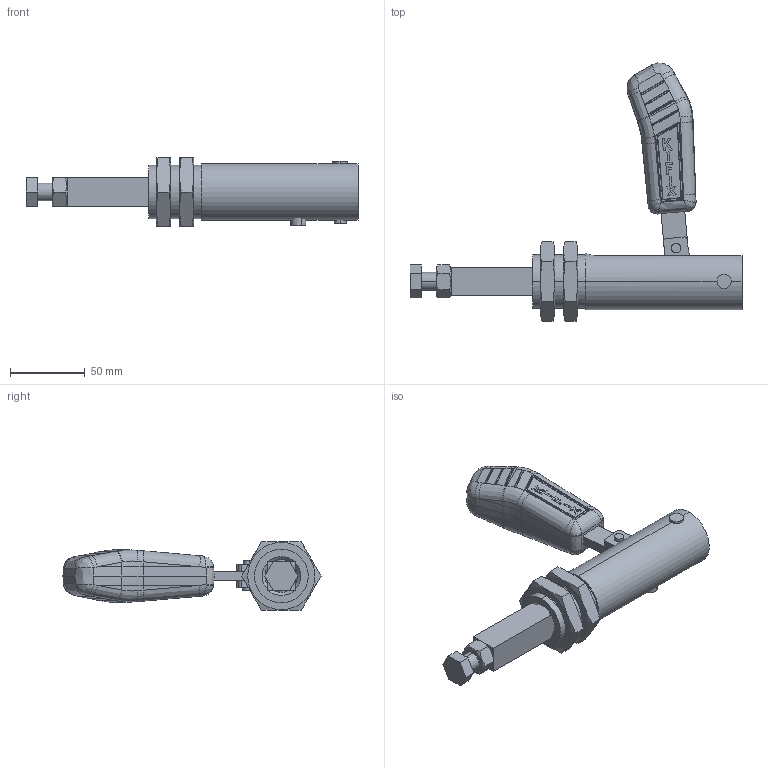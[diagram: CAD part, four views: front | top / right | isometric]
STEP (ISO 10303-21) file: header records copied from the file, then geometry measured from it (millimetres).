
FILE_DESCRIPTION (( 'STEP AP203' ), '1' );
FILE_NAME ('KFKT-012 F.STEP', '2016-10-20T17:09:11', ( 'Ricardo' ), ( '' ), 'SwSTEP 2.0', 'SolidWorks 2015', '' );
FILE_SCHEMA (( 'CONFIG_CONTROL_DESIGN' ));
Length unit declared in the file: millimetre
Products named in the file (16): 06.50039; 06.50040; 11.20008; 11.50004; 02.20006; 12.50022; Subconjunto Cabo KFKT; 01.10176; PP-M12; 03.20042; 01.10177; 07.60002; 08.10045; 3670000073; KFKT-012 F; 06.50038
Assembly tree (17 placements, depth 3):
  KFKT-012 F
    02.20006
    Subconjunto Cabo KFKT
      01.10176
      01.10177  x2
      3670000073
    03.20042
    08.10045
    06.50038
    06.50039
    06.50040
    11.20008  x2
    PP-M12
      11.50004
      12.50022
    07.60002
Bounding box: 222.34 x 172.83 x 46 mm (x, y, z)
Volume: 257027.9 mm3; surface area: 91562.2 mm2
Topology: 15 solids, 15 shells, 629 faces, 1605 edges, 1012 vertices
Faces by surface type: plane 215, bspline 157, cylinder 148, cone 54, sphere 52, torus 3
Entity records: 23896 total; most frequent: CARTESIAN_POINT 9371, ORIENTED_EDGE 2958, DIRECTION 2233, EDGE_CURVE 1479, VERTEX_POINT 940, AXIS2_PLACEMENT_3D 853, EDGE_LOOP 641, FACE_OUTER_BOUND 589
